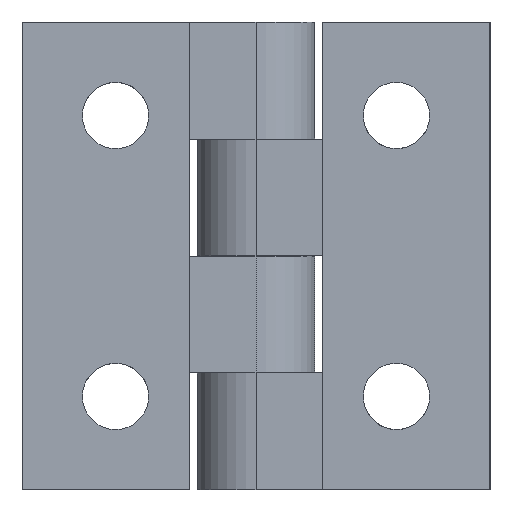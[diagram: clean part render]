
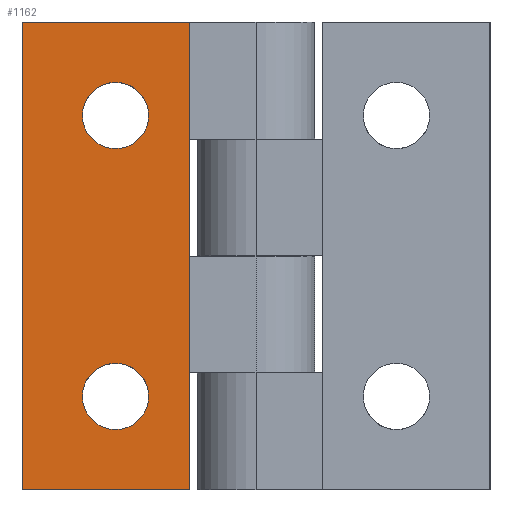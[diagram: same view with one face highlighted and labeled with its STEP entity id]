
A CAD part, front view. The second image highlights one B-rep face of the part: STEP entity #1162.
In plain terms, the highlighted planar face has unit normal (0, -1, 0).
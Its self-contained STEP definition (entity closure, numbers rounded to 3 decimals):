
#316=CARTESIAN_POINT('',(-22.175,-1.56,12.));
#317=VERTEX_POINT('',#316);
#318=CARTESIAN_POINT('',(-17.925,-1.56,12.));
#319=DIRECTION('',(0.0,1.0,0.0));
#320=DIRECTION('',(1.0,0.0,0.0));
#321=AXIS2_PLACEMENT_3D('',#318,#319,#320);
#322=CIRCLE('',#321,4.25);
#323=EDGE_CURVE('',#317,#317,#322,.T.);
#414=CARTESIAN_POINT('',(-22.175,-1.56,48.));
#415=VERTEX_POINT('',#414);
#416=CARTESIAN_POINT('',(-17.925,-1.56,48.));
#417=DIRECTION('',(0.0,1.0,0.0));
#418=DIRECTION('',(1.0,0.0,0.0));
#419=AXIS2_PLACEMENT_3D('',#416,#417,#418);
#420=CIRCLE('',#419,4.25);
#421=EDGE_CURVE('',#415,#415,#420,.T.);
#772=CARTESIAN_POINT('',(-8.425,-1.56,60.0));
#773=VERTEX_POINT('',#772);
#780=CARTESIAN_POINT('',(-8.425,-1.56,0.0));
#781=VERTEX_POINT('',#780);
#782=CARTESIAN_POINT('',(-8.425,-1.56,0.0));
#783=DIRECTION('',(0.0,0.0,1.0));
#784=VECTOR('',#783,60.0);
#785=LINE('',#782,#784);
#786=EDGE_CURVE('',#781,#773,#785,.T.);
#1126=CARTESIAN_POINT('',(-8.425,-1.56,0.0));
#1127=DIRECTION('',(0.0,-1.0,0.0));
#1128=DIRECTION('',(0.0,0.0,-1.0));
#1129=AXIS2_PLACEMENT_3D('',#1126,#1127,#1128);
#1130=PLANE('',#1129);
#1131=CARTESIAN_POINT('',(-29.925,-1.56,60.0));
#1132=VERTEX_POINT('',#1131);
#1133=CARTESIAN_POINT('',(-8.425,-1.56,60.0));
#1134=DIRECTION('',(-1.0,0.0,0.0));
#1135=VECTOR('',#1134,21.5);
#1136=LINE('',#1133,#1135);
#1137=EDGE_CURVE('',#773,#1132,#1136,.T.);
#1138=ORIENTED_EDGE('',*,*,#1137,.T.);
#1139=CARTESIAN_POINT('',(-29.925,-1.56,0.0));
#1140=VERTEX_POINT('',#1139);
#1141=CARTESIAN_POINT('',(-29.925,-1.56,0.0));
#1142=DIRECTION('',(0.0,0.0,1.0));
#1143=VECTOR('',#1142,60.0);
#1144=LINE('',#1141,#1143);
#1145=EDGE_CURVE('',#1140,#1132,#1144,.T.);
#1146=ORIENTED_EDGE('',*,*,#1145,.F.);
#1147=CARTESIAN_POINT('',(-8.425,-1.56,0.0));
#1148=DIRECTION('',(-1.0,0.0,0.0));
#1149=VECTOR('',#1148,21.5);
#1150=LINE('',#1147,#1149);
#1151=EDGE_CURVE('',#781,#1140,#1150,.T.);
#1152=ORIENTED_EDGE('',*,*,#1151,.F.);
#1153=ORIENTED_EDGE('',*,*,#786,.T.);
#1154=EDGE_LOOP('',(#1138,#1146,#1152,#1153));
#1155=FACE_OUTER_BOUND('',#1154,.T.);
#1156=ORIENTED_EDGE('',*,*,#323,.T.);
#1157=EDGE_LOOP('',(#1156));
#1158=FACE_BOUND('',#1157,.T.);
#1159=ORIENTED_EDGE('',*,*,#421,.T.);
#1160=EDGE_LOOP('',(#1159));
#1161=FACE_BOUND('',#1160,.T.);
#1162=ADVANCED_FACE('',(#1155,#1158,#1161),#1130,.T.);
